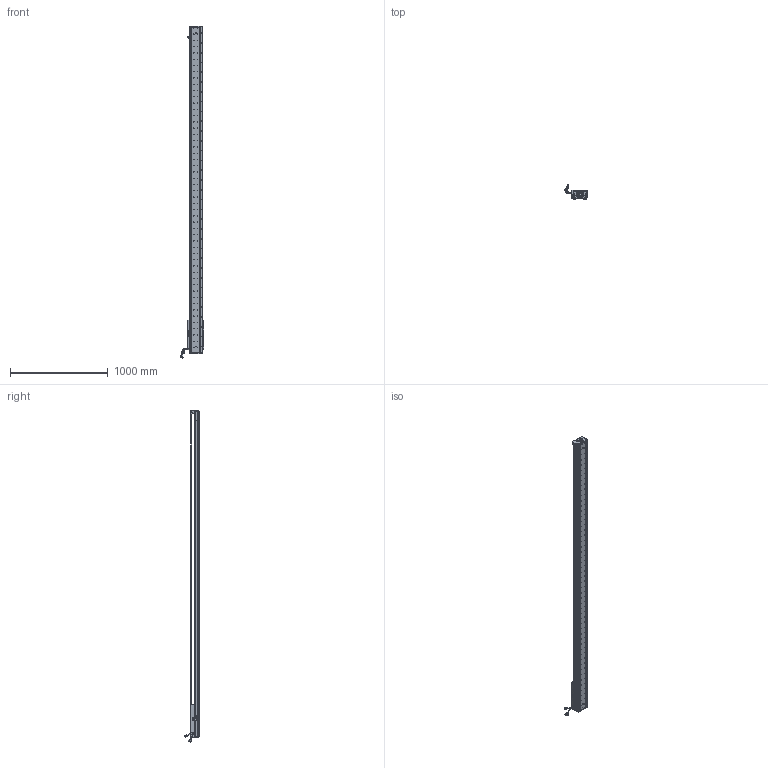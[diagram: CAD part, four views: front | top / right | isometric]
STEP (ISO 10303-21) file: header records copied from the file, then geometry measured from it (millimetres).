
FILE_DESCRIPTION (( 'STEP AP203' ), '1' );
FILE_NAME ('Z4-RY140D-1-L500-B-K.SLDASM_2950.step', '2021-05-17T08:22:11', ( '盈信电脑' ), ( '东莞市道滘镇水果街19号' ), 'SwSTEP 2.0', 'SolidWorks 2016', '' );
FILE_SCHEMA (( 'CONFIG_CONTROL_DESIGN' ));
Length unit declared in the file: millimetre
Products named in the file (36): HARNESS-Part-1; SCREW-M1.6-1; HARNESS; SHIELDPLATE; 詩湍奻揤裔; LABEL; 140-Z-臏賑輸盄裔(21遴); SEAL; Z4-RY140-L500詩湍100mm遵_2950; Z4-RY140-L500直线电机模组底座_2950; 140雄赽晤鎢ん堤盄; HOLDER0; 詩湍狟揤裔; LABEL-Part-1; SCALE; HARNESS-Part-2; SEAL-Part-1; SCALE-Part-1; Z4-RY140D-1-L500-B-K.SLDASM_2950; COVER; 榋妏寠巭燃_暯_M2_2; Z4-RY140圉猾敕臏賑輸(21遴); PBU_SHEET; SCREW-M1.6-3; SCREW-M1.6; SCREW-M1.7-1; COVER-Part-1; PSLH080_PSLF2; SCREW-M1.7; Z-RY140感应器672光电感应片; SCREW-M1.6-2; 140蚥薯蝶輸; SCALE-Part-2; 080黍杅芛假蚾釱21遴; 覜茼ん672; Z-140詩湍傷裔啣
Assembly tree (41 placements, depth 4):
  Z4-RY140D-1-L500-B-K.SLDASM_2950
    Z4-RY140-L500直线电机模组底座_2950
    Z-RY140感应器672光电感应片
    Z4-RY140圉猾敕臏賑輸(21遴)
    覜茼ん672  x3
    Z4-RY140-L500詩湍100mm遵_2950
    PSLH080_PSLF2
      SCALE
        SCALE-Part-1
        SCALE-Part-2
      HARNESS
        HARNESS-Part-1
        HARNESS-Part-2
      LABEL
        LABEL-Part-1
      COVER
        COVER-Part-1
      SEAL
        SEAL-Part-1
      榋妏寠巭燃_暯_M2_2
      SHIELDPLATE
      SCREW-M1.7
      SCREW-M1.7-1
      PBU_SHEET
      SCREW-M1.6
      SCREW-M1.6-1
      SCREW-M1.6-2
      SCREW-M1.6-3
      HOLDER0
    080黍杅芛假蚾釱21遴
    140-Z-臏賑輸盄裔(21遴)
    Z-140詩湍傷裔啣  x2
    詩湍狟揤裔  x2
    詩湍奻揤裔  x2
    140蚥薯蝶輸  x2
    140雄赽晤鎢ん堤盄
Bounding box: 239.79 x 143.88 x 3390.87 mm (x, y, z)
Volume: 10797240.4 mm3; surface area: 2797403 mm2
Topology: 36 solids, 36 shells, 4654 faces, 12768 edges, 8087 vertices
Faces by surface type: cylinder 2610, plane 1468, cone 454, torus 69, bspline 53
Entity records: 150808 total; most frequent: CARTESIAN_POINT 43697, ORIENTED_EDGE 22352, DIRECTION 20364, EDGE_CURVE 11176, AXIS2_PLACEMENT_3D 7602, VERTEX_POINT 7255, VECTOR 5160, LINE 5160
